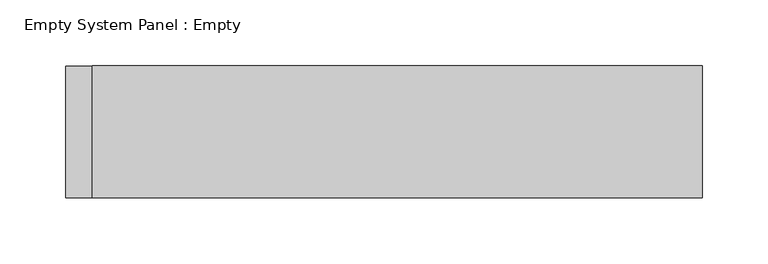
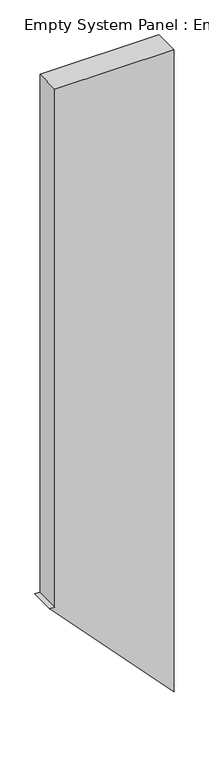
"""IFC4 building model written with IfcOpenShell, lengths in millimetres: plate geometry, Empty System Panel : Empty."""

from ifc_helpers import new_model, si_unit, frame, origin, place, context, project, spatial, polyline, outline, extrude, source, transform, mapped, element, save


def empty_system_panel_empty_0d613119(model_context):
    return source(origin(), model_context, "Body", "SweptSolid", [
        extrude(outline(polyline([(510.177857, -241.6440778), (0.0, 241.6440778), (2635.3404104, 241.6440778), (2635.3404104, -221.6440778), (510.177857, -221.6440778), (510.177857, -241.6440778)])), frame((0.0, -50.0, 0.0), z_axis=(0.0, 1.0, 0.0), x_axis=(0.0, 0.0, 1.0)), (0.0, 0.0, 1.0), 100.0),
    ])


if __name__ == "__main__":
    model = new_model("IFC4")
    model_context = context("Model", 3, world=origin())
    ifc_project = project(units=[si_unit("LENGTHUNIT", "METRE", prefix="MILLI")], contexts=[model_context])
    site = spatial("IfcSite", under=ifc_project)
    building = spatial("IfcBuilding", under=site)
    placement = place(None, origin())
    empty_system_panel_empty_shape = empty_system_panel_empty_0d613119(model_context)
    element("IfcPlate", 1, ObjectType="Empty System Panel : Empty", at=placement, inside=building, context=model_context, shape_type="MappedRepresentation", body=[
        mapped(empty_system_panel_empty_shape, transform((0.0, 0.0, 0.0), x_axis=(1.0, 0.0, 0.0), y_axis=(0.0, 1.0, 0.0), z_axis=(0.0, 0.0, 1.0))),
    ])
    save(model, "model.ifc")
